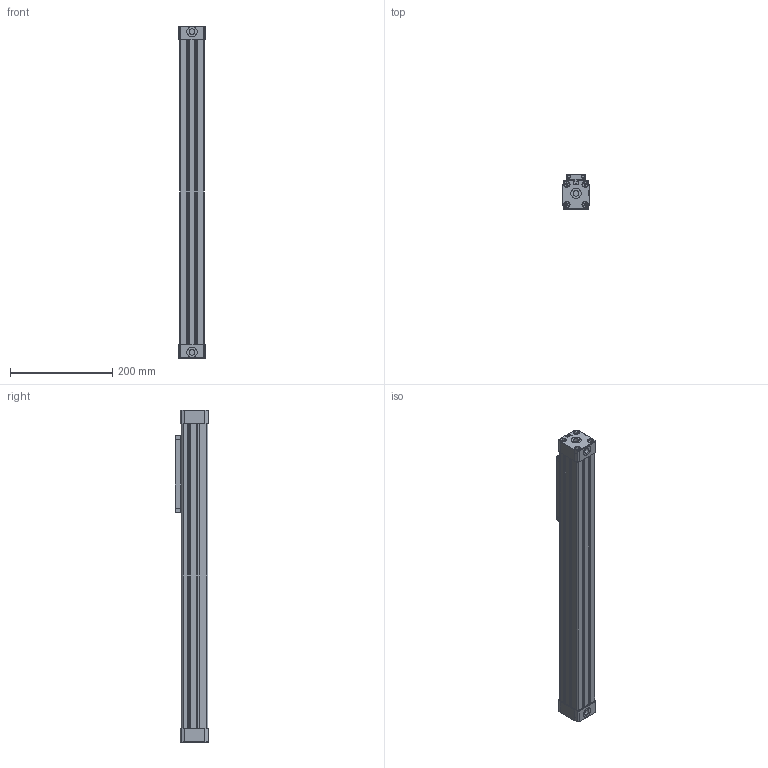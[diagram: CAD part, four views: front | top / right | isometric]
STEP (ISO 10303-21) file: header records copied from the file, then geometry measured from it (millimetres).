
FILE_DESCRIPTION(/* description */ ('Unknown'),/* implementation_level */ '2;1');
FILE_NAME(/* name */ 'PLF 32_00_400',/* time_stamp */ '2024-12-09T10:32:23+01:00',/* author */ ('Unknown'),/* organization */ ('Unknown'),/* preprocessor_version */ 'ST-DEVELOPER v16.7',/* originating_system */ 'Solid Edge',/* authorisation */ 'Unknown');
FILE_SCHEMA (('AP203_CONFIGURATION_CONTROLLED_3D_DESIGN_OF_MECHANICAL_PARTS_AND_ASSEMBLIES_MIM_LF { 1 0 10303 203 3 1 4 }','AUTOMOTIVE_DESIGN {1 0 10303 214 3 1 1}'));
Length unit declared in the file: millimetre
Products named in the file (3): PLF 32_00_400; Zylinder; Platte
Assembly tree (2 placements, depth 2):
  PLF 32_00_400
    Zylinder
    Platte
Bounding box: 52 x 66.5 x 650 mm (x, y, z)
Volume: 1244502.8 mm3; surface area: 320500.4 mm2
Topology: 2 solids, 26 shells, 772 faces, 1906 edges, 1233 vertices
Faces by surface type: plane 494, cylinder 210, cone 64, torus 4
Full cylindrical faces by diameter (mm): 2.459 x4, 2.874 x4, 3 x4, 3.1 x4, 3.5 x4, 4.917 x28, 5 x4, 5.5 x4, 6 x12, 8 x2, 8.4 x8, 8.9 x8, 11.445 x6, 12 x8, 12.6 x8, 20 x6, 25 x2, 31.8 x2, 32.1 x1
Entity records: 26516 total; most frequent: DIRECTION 3652, CARTESIAN_POINT 3627, ORIENTED_EDGE 3268, EDGE_CURVE 1634, AXIS2_PLACEMENT_3D 1261, VERTEX_POINT 1152, LINE 1130, VECTOR 1130
